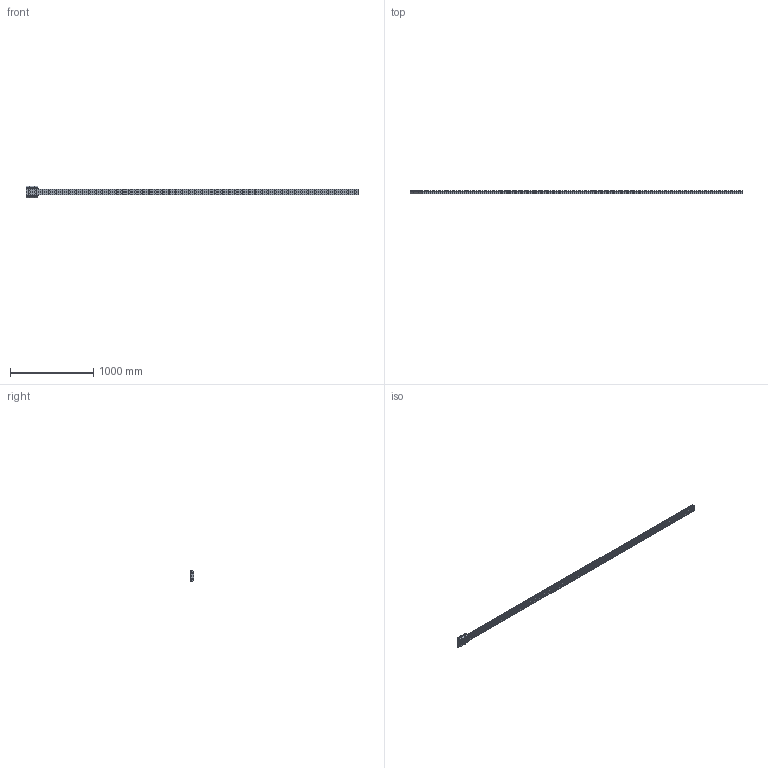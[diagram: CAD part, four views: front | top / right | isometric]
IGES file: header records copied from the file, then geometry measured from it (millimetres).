
Start section: Data from Parasolid IGES Translator 25.0.145, Copyright(c) 2006 Siemens PLM Software. All Rights Reserved.
Global section: file name: FDC35 84368AN_4000-0-0.igs; native system: By Siemens PLM Incorporated; preprocessor: XPlus GENERIC/IGES 25.0.145; author: Noname; organization: Noname; date: 20220623.024611; units: millimetre
Bounding box: 4000 x 44.5 x 137.8 mm (x, y, z)
Surface area: 1363971.6 mm2 (no closed solid volume)
Topology: 0 solids, 0 shells, 801 faces, 4038 edges, 3609 vertices
Faces by surface type: extrusion 473, revolution 328
